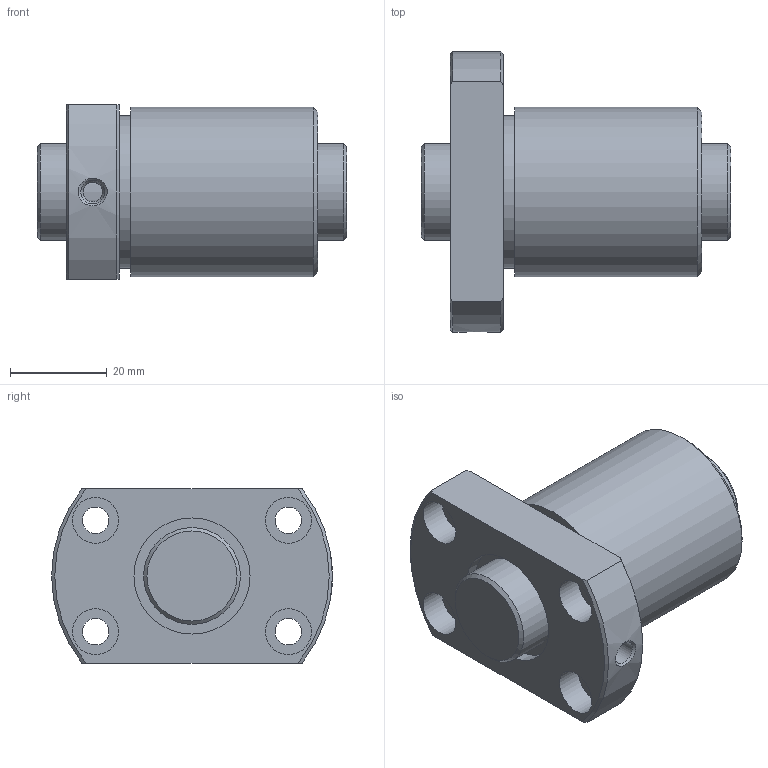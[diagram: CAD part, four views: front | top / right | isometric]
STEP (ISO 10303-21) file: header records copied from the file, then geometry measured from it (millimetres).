
FILE_DESCRIPTION(/* description */ ('STEP AP203'),/* implementation_level */ '2;1');
FILE_NAME(/* name */ 'DK2006-3RRG1+64LC0_000',/* time_stamp */ '2025-01-13T09:08:53+01:00',/* author */ ('License CC BY-ND 4.0'),/* organization */ ('CADENAS'),/* preprocessor_version */ 'ST-DEVELOPER v19.3',/* originating_system */ 'PARTsolutions',/* authorisation */ ' ');
FILE_SCHEMA (('CONFIG_CONTROL_DESIGN'));
Length unit declared in the file: millimetre
Products named in the file (3): DK2006-3RRG1+64LC0_000; DK 2006-3RR06400 Shaft; DK 2006-3RR0Nut
Assembly tree (2 placements, depth 2):
  DK2006-3RRG1+64LC0_000
    DK 2006-3RR06400 Shaft
    DK 2006-3RR0Nut
Bounding box: 64 x 58 x 36 mm (x, y, z)
Volume: 60998.9 mm3; surface area: 18845.2 mm2
Topology: 2 solids, 2 shells, 41 faces, 83 edges, 54 vertices
Faces by surface type: cylinder 18, plane 14, cone 9
Full cylindrical faces by diameter (mm): 4 x1, 4.917 x1, 5.5 x4, 9.5 x4, 20 x2, 24 x2, 31.5 x1, 35 x1
Entity records: 1087 total; most frequent: CARTESIAN_POINT 200, DIRECTION 180, ORIENTED_EDGE 120, AXIS2_PLACEMENT_3D 86, EDGE_LOOP 82, FACE_BOUND 82, EDGE_CURVE 60, VERTEX_POINT 52
